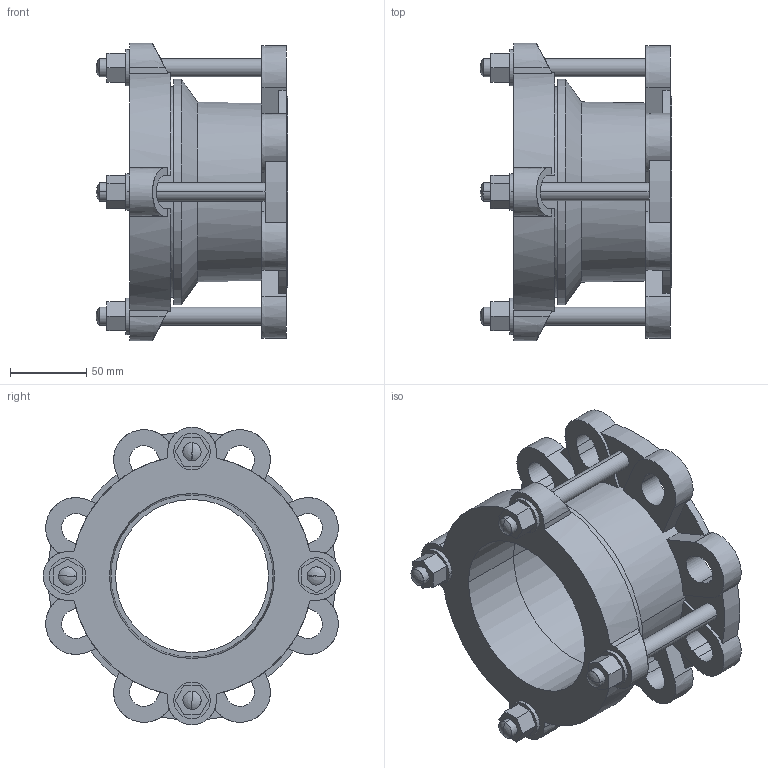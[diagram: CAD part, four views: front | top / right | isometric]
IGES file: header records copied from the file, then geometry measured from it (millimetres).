
Start section:  PTC IGES file: maxidaptor_85-107.igs
Global section: file name: maxidaptor_85-107.igs; native system: Creo Parametric by PTC Inc.; preprocessor: 2016130; author: MReader; organization: Unknown; date: 20181005.103556; units: millimetre
Bounding box: 126 x 195.5 x 195.5 mm (x, y, z)
Surface area: 175307.7 mm2 (no closed solid volume)
Topology: 0 solids, 0 shells, 213 faces, 1148 edges, 1140 vertices
Faces by surface type: bspline 121, revolution 92
